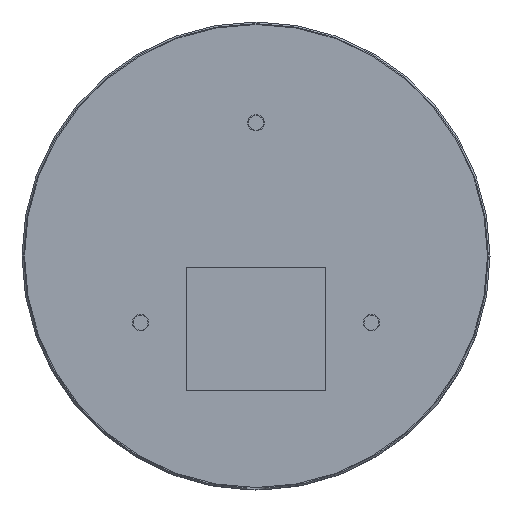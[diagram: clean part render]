
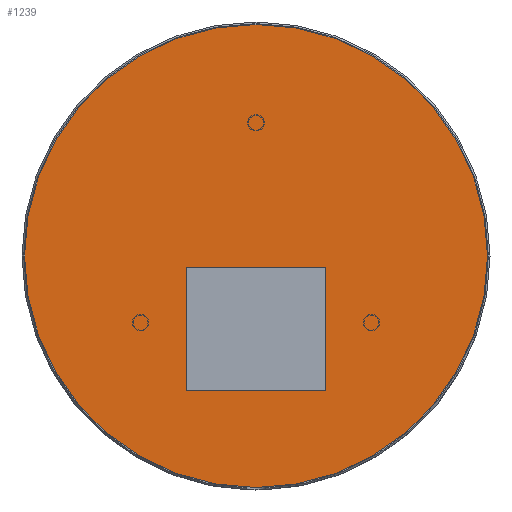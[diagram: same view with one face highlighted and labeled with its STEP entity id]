
A CAD part, front view. The second image highlights one B-rep face of the part: STEP entity #1239.
In plain terms, the highlighted planar face has unit normal (0, -1, 0).
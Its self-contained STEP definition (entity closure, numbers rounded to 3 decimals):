
#34 = DIRECTION ( 'NONE',  ( 0., 0., -1. ) ) ;
#87 = ORIENTED_EDGE ( 'NONE', *, *, #574, .T. ) ;
#98 = CARTESIAN_POINT ( 'NONE',  ( -21., -1.4, -40.5 ) ) ;
#316 = VECTOR ( 'NONE', #2406, 1000. ) ;
#565 = CARTESIAN_POINT ( 'NONE',  ( -21., -1.4, -3.5 ) ) ;
#574 = EDGE_CURVE ( 'NONE', #5422, #1771, #6594, .T. ) ;
#774 = ORIENTED_EDGE ( 'NONE', *, *, #10203, .T. ) ;
#1016 = DIRECTION ( 'NONE',  ( 0., 0., 1. ) ) ;
#1239 = ADVANCED_FACE ( 'NONE', ( #10215, #2928 ), #6750, .F. ) ;
#1722 = EDGE_CURVE ( 'NONE', #5869, #1855, #8192, .T. ) ;
#1771 = VERTEX_POINT ( 'NONE', #5164 ) ;
#1855 = VERTEX_POINT ( 'NONE', #4986 ) ;
#1885 = EDGE_CURVE ( 'NONE', #1771, #8851, #6358, .T. ) ;
#1962 = ORIENTED_EDGE ( 'NONE', *, *, #1885, .T. ) ;
#2406 = DIRECTION ( 'NONE',  ( 1., 0., 0. ) ) ;
#2928 = FACE_OUTER_BOUND ( 'NONE', #7262, .T. ) ;
#3021 = DIRECTION ( 'NONE',  ( 0., 1., 0. ) ) ;
#3405 = EDGE_LOOP ( 'NONE', ( #1962, #774, #3993, #87 ) ) ;
#3621 = DIRECTION ( 'NONE',  ( 0., 1., 0. ) ) ;
#3728 = VECTOR ( 'NONE', #34, 1000. ) ;
#3993 = ORIENTED_EDGE ( 'NONE', *, *, #6330, .T. ) ;
#3998 = CARTESIAN_POINT ( 'NONE',  ( -21., -1.4, -3.5 ) ) ;
#4026 = ORIENTED_EDGE ( 'NONE', *, *, #1722, .F. ) ;
#4329 = EDGE_CURVE ( 'NONE', #1855, #5869, #6462, .T. ) ;
#4699 = DIRECTION ( 'NONE',  ( 0., 0., 1. ) ) ;
#4755 = LINE ( 'NONE', #10229, #8824 ) ;
#4986 = CARTESIAN_POINT ( 'NONE',  ( 0., -1.4, 69.5 ) ) ;
#5116 = CARTESIAN_POINT ( 'NONE',  ( 0., -1.4, 0. ) ) ;
#5164 = CARTESIAN_POINT ( 'NONE',  ( 21., -1.4, -3.5 ) ) ;
#5208 = CARTESIAN_POINT ( 'NONE',  ( 0., -1.4, -69.5 ) ) ;
#5270 = CARTESIAN_POINT ( 'NONE',  ( 0., -1.4, 0. ) ) ;
#5274 = DIRECTION ( 'NONE',  ( 0., 0., 1. ) ) ;
#5422 = VERTEX_POINT ( 'NONE', #565 ) ;
#5869 = VERTEX_POINT ( 'NONE', #5208 ) ;
#6330 = EDGE_CURVE ( 'NONE', #8519, #5422, #4755, .T. ) ;
#6358 = LINE ( 'NONE', #9621, #3728 ) ;
#6462 = CIRCLE ( 'NONE', #7503, 69.5 ) ;
#6594 = LINE ( 'NONE', #3998, #316 ) ;
#6706 = ORIENTED_EDGE ( 'NONE', *, *, #4329, .F. ) ;
#6750 = PLANE ( 'NONE',  #8044 ) ;
#6799 = DIRECTION ( 'NONE',  ( -1., 0., 0. ) ) ;
#6903 = CARTESIAN_POINT ( 'NONE',  ( 21., -1.4, -40.5 ) ) ;
#7262 = EDGE_LOOP ( 'NONE', ( #4026, #6706 ) ) ;
#7503 = AXIS2_PLACEMENT_3D ( 'NONE', #5270, #3021, #9580 ) ;
#8044 = AXIS2_PLACEMENT_3D ( 'NONE', #10049, #3621, #5274 ) ;
#8192 = CIRCLE ( 'NONE', #9541, 69.5 ) ;
#8313 = DIRECTION ( 'NONE',  ( 0., 1., 0. ) ) ;
#8519 = VERTEX_POINT ( 'NONE', #98 ) ;
#8674 = VECTOR ( 'NONE', #6799, 1000. ) ;
#8824 = VECTOR ( 'NONE', #4699, 1000. ) ;
#8851 = VERTEX_POINT ( 'NONE', #10493 ) ;
#9262 = LINE ( 'NONE', #6903, #8674 ) ;
#9541 = AXIS2_PLACEMENT_3D ( 'NONE', #5116, #8313, #1016 ) ;
#9580 = DIRECTION ( 'NONE',  ( 0., 0., 1. ) ) ;
#9621 = CARTESIAN_POINT ( 'NONE',  ( 21., -1.4, -19.5 ) ) ;
#10049 = CARTESIAN_POINT ( 'NONE',  ( 0., -1.4, 0. ) ) ;
#10203 = EDGE_CURVE ( 'NONE', #8851, #8519, #9262, .T. ) ;
#10215 = FACE_BOUND ( 'NONE', #3405, .T. ) ;
#10229 = CARTESIAN_POINT ( 'NONE',  ( -21., -1.4, -40.5 ) ) ;
#10493 = CARTESIAN_POINT ( 'NONE',  ( 21., -1.4, -40.5 ) ) ;
